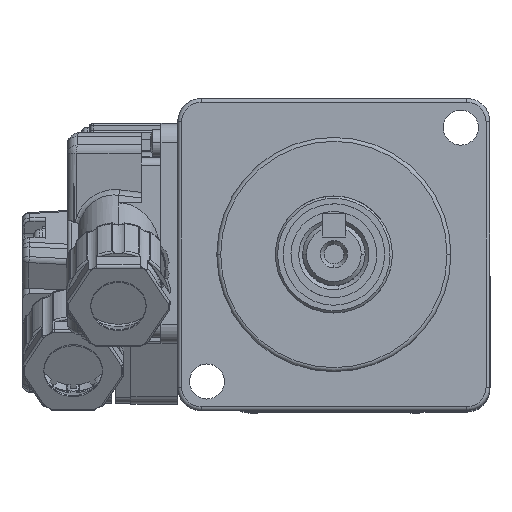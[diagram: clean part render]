
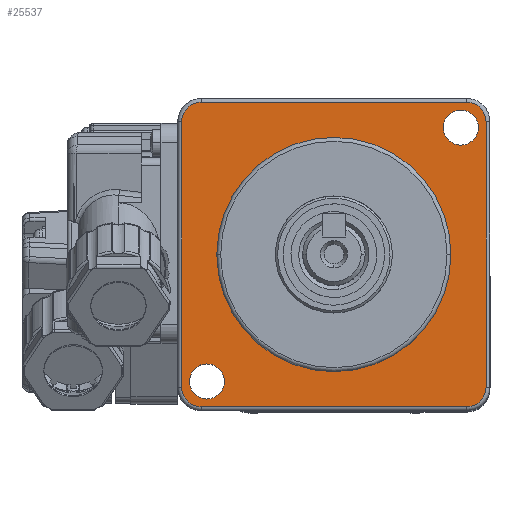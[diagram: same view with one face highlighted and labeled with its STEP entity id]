
A CAD part, top view. The second image highlights one B-rep face of the part: STEP entity #25537.
In plain terms, the highlighted planar face has unit normal (0, 0, 1).
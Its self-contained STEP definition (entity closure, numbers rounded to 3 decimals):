
#456 = AXIS2_PLACEMENT_3D ( 'NONE', #43394, #5074, #21271 ) ;
#819 = CIRCLE ( 'NONE', #35021, 2.25 ) ;
#852 = CARTESIAN_POINT ( 'NONE',  ( -16.263, -16.263, 50. ) ) ;
#1443 = CARTESIAN_POINT ( 'NONE',  ( 0., 0., 50. ) ) ;
#1525 = EDGE_CURVE ( 'NONE', #34692, #23957, #819, .T. ) ;
#1560 = CARTESIAN_POINT ( 'NONE',  ( 16.263, 16.263, 50. ) ) ;
#3082 = DIRECTION ( 'NONE',  ( 0., 0., 1. ) ) ;
#3431 = DIRECTION ( 'NONE',  ( -1., 0., 0. ) ) ;
#3690 = EDGE_LOOP ( 'NONE', ( #13212, #36076 ) ) ;
#4639 = DIRECTION ( 'NONE',  ( -1., 0., 0. ) ) ;
#4999 = AXIS2_PLACEMENT_3D ( 'NONE', #1443, #12378, #4639 ) ;
#5074 = DIRECTION ( 'NONE',  ( 0., 0., 1. ) ) ;
#5105 = EDGE_CURVE ( 'NONE', #41555, #45028, #29040, .T. ) ;
#5108 = DIRECTION ( 'NONE',  ( -1., 0., 0. ) ) ;
#5372 = AXIS2_PLACEMENT_3D ( 'NONE', #852, #24024, #20101 ) ;
#5482 = EDGE_CURVE ( 'NONE', #38492, #26484, #26550, .T. ) ;
#5659 = AXIS2_PLACEMENT_3D ( 'NONE', #35220, #16213, #43246 ) ;
#5700 = FACE_BOUND ( 'NONE', #43051, .T. ) ;
#6914 = LINE ( 'NONE', #30746, #41975 ) ;
#7554 = VERTEX_POINT ( 'NONE', #12224 ) ;
#8318 = AXIS2_PLACEMENT_3D ( 'NONE', #27971, #8997, #5108 ) ;
#8997 = DIRECTION ( 'NONE',  ( 0., 0., 1. ) ) ;
#9127 = CARTESIAN_POINT ( 'NONE',  ( 19.5, -17., 50. ) ) ;
#9241 = DIRECTION ( 'NONE',  ( 0., 0., 1. ) ) ;
#10896 = EDGE_CURVE ( 'NONE', #21263, #38492, #17667, .T. ) ;
#11076 = CARTESIAN_POINT ( 'NONE',  ( 0., 19.5, 50. ) ) ;
#11540 = CIRCLE ( 'NONE', #24051, 2.25 ) ;
#11738 = CIRCLE ( 'NONE', #5372, 2.25 ) ;
#12224 = CARTESIAN_POINT ( 'NONE',  ( -18.513, -16.263, 50. ) ) ;
#12378 = DIRECTION ( 'NONE',  ( 0., 0., 1. ) ) ;
#13188 = DIRECTION ( 'NONE',  ( -1., 0., 0. ) ) ;
#13212 = ORIENTED_EDGE ( 'NONE', *, *, #5105, .F. ) ;
#13544 = FACE_OUTER_BOUND ( 'NONE', #28269, .T. ) ;
#13664 = EDGE_CURVE ( 'NONE', #35014, #21263, #24210, .T. ) ;
#14828 = CARTESIAN_POINT ( 'NONE',  ( 19.5, 17., 50. ) ) ;
#14912 = CARTESIAN_POINT ( 'NONE',  ( 17., 19.5, 50. ) ) ;
#15216 = CARTESIAN_POINT ( 'NONE',  ( 0., 0., 50. ) ) ;
#15225 = CIRCLE ( 'NONE', #8318, 2.25 ) ;
#15850 = CARTESIAN_POINT ( 'NONE',  ( -15., 0., 50. ) ) ;
#15952 = AXIS2_PLACEMENT_3D ( 'NONE', #15216, #22713, #3431 ) ;
#16213 = DIRECTION ( 'NONE',  ( 0., 0., 1. ) ) ;
#16291 = CARTESIAN_POINT ( 'NONE',  ( -17., -19.5, 50. ) ) ;
#16473 = DIRECTION ( 'NONE',  ( 0., 0., 1. ) ) ;
#17051 = CARTESIAN_POINT ( 'NONE',  ( 16.263, 16.263, 50. ) ) ;
#17667 = LINE ( 'NONE', #43399, #45440 ) ;
#18490 = CARTESIAN_POINT ( 'NONE',  ( 17., -17., 50. ) ) ;
#19839 = EDGE_CURVE ( 'NONE', #38761, #29545, #42194, .T. ) ;
#20101 = DIRECTION ( 'NONE',  ( -1., 0., 0. ) ) ;
#20115 = ORIENTED_EDGE ( 'NONE', *, *, #49704, .F. ) ;
#20183 = CARTESIAN_POINT ( 'NONE',  ( 15., 0., 50. ) ) ;
#20283 = LINE ( 'NONE', #11076, #41387 ) ;
#20941 = DIRECTION ( 'NONE',  ( -1., 0., 0. ) ) ;
#21263 = VERTEX_POINT ( 'NONE', #9127 ) ;
#21271 = DIRECTION ( 'NONE',  ( -1., 0., 0. ) ) ;
#21404 = FACE_BOUND ( 'NONE', #3690, .T. ) ;
#21920 = EDGE_CURVE ( 'NONE', #50027, #35014, #6914, .T. ) ;
#22713 = DIRECTION ( 'NONE',  ( 0., 0., -1. ) ) ;
#23276 = CARTESIAN_POINT ( 'NONE',  ( -14.013, -16.263, 50. ) ) ;
#23322 = ORIENTED_EDGE ( 'NONE', *, *, #43794, .T. ) ;
#23957 = VERTEX_POINT ( 'NONE', #40618 ) ;
#24024 = DIRECTION ( 'NONE',  ( 0., 0., 1. ) ) ;
#24051 = AXIS2_PLACEMENT_3D ( 'NONE', #1560, #36405, #13188 ) ;
#24210 = CIRCLE ( 'NONE', #26822, 2.5 ) ;
#24755 = CARTESIAN_POINT ( 'NONE',  ( -19.5, -17., 50. ) ) ;
#25116 = ORIENTED_EDGE ( 'NONE', *, *, #13664, .T. ) ;
#25537 = ADVANCED_FACE ( 'NONE', ( #13544, #5700, #29945, #21404 ), #26791, .F. ) ;
#26366 = ORIENTED_EDGE ( 'NONE', *, *, #19839, .T. ) ;
#26484 = VERTEX_POINT ( 'NONE', #14912 ) ;
#26550 = CIRCLE ( 'NONE', #5659, 2.5 ) ;
#26791 = PLANE ( 'NONE',  #15952 ) ;
#26822 = AXIS2_PLACEMENT_3D ( 'NONE', #18490, #3082, #30371 ) ;
#27672 = EDGE_CURVE ( 'NONE', #26484, #38761, #20283, .T. ) ;
#27971 = CARTESIAN_POINT ( 'NONE',  ( -16.263, -16.263, 50. ) ) ;
#28269 = EDGE_LOOP ( 'NONE', ( #30632, #26366, #49021, #23322, #48075, #25116, #46105, #36296 ) ) ;
#28403 = VERTEX_POINT ( 'NONE', #24755 ) ;
#29040 = CIRCLE ( 'NONE', #4999, 15. ) ;
#29124 = ORIENTED_EDGE ( 'NONE', *, *, #1525, .F. ) ;
#29545 = VERTEX_POINT ( 'NONE', #44716 ) ;
#29650 = EDGE_CURVE ( 'NONE', #29545, #28403, #33709, .T. ) ;
#29945 = FACE_BOUND ( 'NONE', #31059, .T. ) ;
#30371 = DIRECTION ( 'NONE',  ( -1., 0., 0. ) ) ;
#30632 = ORIENTED_EDGE ( 'NONE', *, *, #27672, .T. ) ;
#30746 = CARTESIAN_POINT ( 'NONE',  ( 0., -19.5, 50. ) ) ;
#31059 = EDGE_LOOP ( 'NONE', ( #36264, #20115 ) ) ;
#32300 = CARTESIAN_POINT ( 'NONE',  ( -17., -17., 50. ) ) ;
#32322 = CARTESIAN_POINT ( 'NONE',  ( -17., 19.5, 50. ) ) ;
#32469 = AXIS2_PLACEMENT_3D ( 'NONE', #32300, #9241, #44175 ) ;
#32946 = CIRCLE ( 'NONE', #34506, 15. ) ;
#33709 = LINE ( 'NONE', #45360, #37351 ) ;
#34506 = AXIS2_PLACEMENT_3D ( 'NONE', #43001, #16473, #39140 ) ;
#34692 = VERTEX_POINT ( 'NONE', #39955 ) ;
#35014 = VERTEX_POINT ( 'NONE', #45940 ) ;
#35021 = AXIS2_PLACEMENT_3D ( 'NONE', #17051, #48296, #20941 ) ;
#35220 = CARTESIAN_POINT ( 'NONE',  ( 17., 17., 50. ) ) ;
#35782 = CIRCLE ( 'NONE', #32469, 2.5 ) ;
#36076 = ORIENTED_EDGE ( 'NONE', *, *, #48614, .F. ) ;
#36264 = ORIENTED_EDGE ( 'NONE', *, *, #40535, .F. ) ;
#36296 = ORIENTED_EDGE ( 'NONE', *, *, #5482, .T. ) ;
#36405 = DIRECTION ( 'NONE',  ( 0., 0., 1. ) ) ;
#37351 = VECTOR ( 'NONE', #37534, 1000. ) ;
#37534 = DIRECTION ( 'NONE',  ( 0., -1., 0. ) ) ;
#37996 = DIRECTION ( 'NONE',  ( 1., 0., 0. ) ) ;
#38492 = VERTEX_POINT ( 'NONE', #14828 ) ;
#38761 = VERTEX_POINT ( 'NONE', #32322 ) ;
#39140 = DIRECTION ( 'NONE',  ( -1., 0., 0. ) ) ;
#39955 = CARTESIAN_POINT ( 'NONE',  ( 18.513, 16.263, 50. ) ) ;
#40059 = DIRECTION ( 'NONE',  ( 0., 1., 0. ) ) ;
#40535 = EDGE_CURVE ( 'NONE', #7554, #48602, #15225, .T. ) ;
#40618 = CARTESIAN_POINT ( 'NONE',  ( 14.013, 16.263, 50. ) ) ;
#41387 = VECTOR ( 'NONE', #46042, 1000. ) ;
#41555 = VERTEX_POINT ( 'NONE', #15850 ) ;
#41975 = VECTOR ( 'NONE', #37996, 1000. ) ;
#42194 = CIRCLE ( 'NONE', #456, 2.5 ) ;
#43001 = CARTESIAN_POINT ( 'NONE',  ( 0., 0., 50. ) ) ;
#43051 = EDGE_LOOP ( 'NONE', ( #44364, #29124 ) ) ;
#43246 = DIRECTION ( 'NONE',  ( -1., 0., 0. ) ) ;
#43394 = CARTESIAN_POINT ( 'NONE',  ( -17., 17., 50. ) ) ;
#43399 = CARTESIAN_POINT ( 'NONE',  ( 19.5, 0., 50. ) ) ;
#43794 = EDGE_CURVE ( 'NONE', #28403, #50027, #35782, .T. ) ;
#44175 = DIRECTION ( 'NONE',  ( -1., 0., 0. ) ) ;
#44364 = ORIENTED_EDGE ( 'NONE', *, *, #45714, .F. ) ;
#44716 = CARTESIAN_POINT ( 'NONE',  ( -19.5, 17., 50. ) ) ;
#45028 = VERTEX_POINT ( 'NONE', #20183 ) ;
#45360 = CARTESIAN_POINT ( 'NONE',  ( -19.5, 0., 50. ) ) ;
#45440 = VECTOR ( 'NONE', #40059, 1000. ) ;
#45714 = EDGE_CURVE ( 'NONE', #23957, #34692, #11540, .T. ) ;
#45940 = CARTESIAN_POINT ( 'NONE',  ( 17., -19.5, 50. ) ) ;
#46042 = DIRECTION ( 'NONE',  ( -1., 0., 0. ) ) ;
#46105 = ORIENTED_EDGE ( 'NONE', *, *, #10896, .T. ) ;
#48075 = ORIENTED_EDGE ( 'NONE', *, *, #21920, .T. ) ;
#48296 = DIRECTION ( 'NONE',  ( 0., 0., 1. ) ) ;
#48602 = VERTEX_POINT ( 'NONE', #23276 ) ;
#48614 = EDGE_CURVE ( 'NONE', #45028, #41555, #32946, .T. ) ;
#49021 = ORIENTED_EDGE ( 'NONE', *, *, #29650, .T. ) ;
#49704 = EDGE_CURVE ( 'NONE', #48602, #7554, #11738, .T. ) ;
#50027 = VERTEX_POINT ( 'NONE', #16291 ) ;
